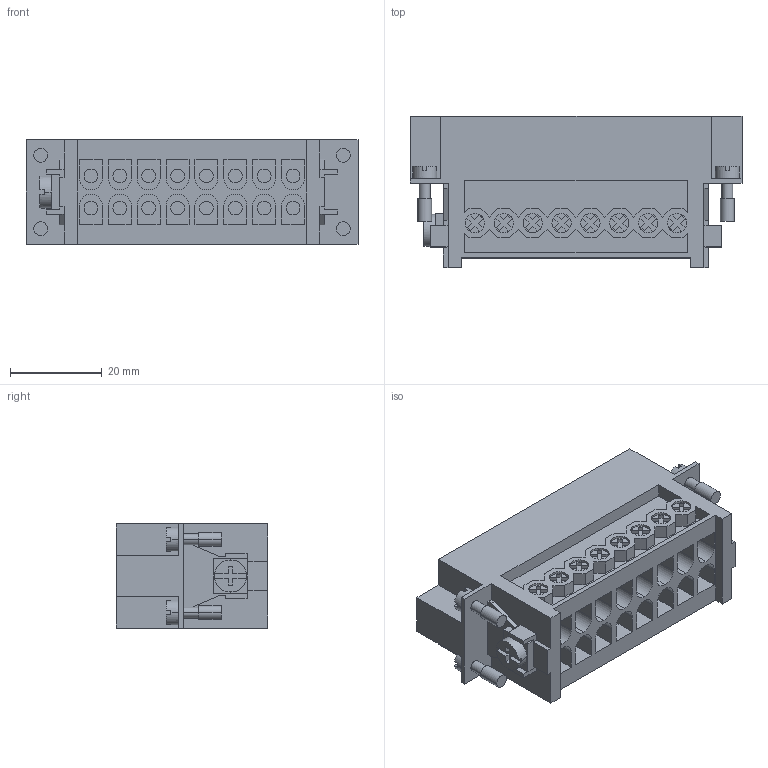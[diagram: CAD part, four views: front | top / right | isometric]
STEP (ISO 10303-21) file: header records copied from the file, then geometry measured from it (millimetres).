
FILE_DESCRIPTION (( 'STEP AP203' ), '1' );
FILE_NAME ('366472.STEP', '2025-06-27T12:03:18', ( '' ), ( '' ), 'SwSTEP 2.0', 'SolidWorks 2018', '' );
FILE_SCHEMA (( 'CONFIG_CONTROL_DESIGN' ));
Length unit declared in the file: millimetre
Products named in the file (1): 366472
Bounding box: 72.4 x 33 x 22.7 mm (x, y, z)
Volume: 25679.2 mm3; surface area: 17232.2 mm2
Topology: 1 solids, 1 shells, 761 faces, 2072 edges, 1364 vertices
Faces by surface type: plane 573, cylinder 156, sphere 32
Entity records: 23503 total; most frequent: CARTESIAN_POINT 4102, ORIENTED_EDGE 4016, DIRECTION 3976, EDGE_CURVE 2008, VECTOR 1564, LINE 1564, VERTEX_POINT 1332, AXIS2_PLACEMENT_3D 1206
